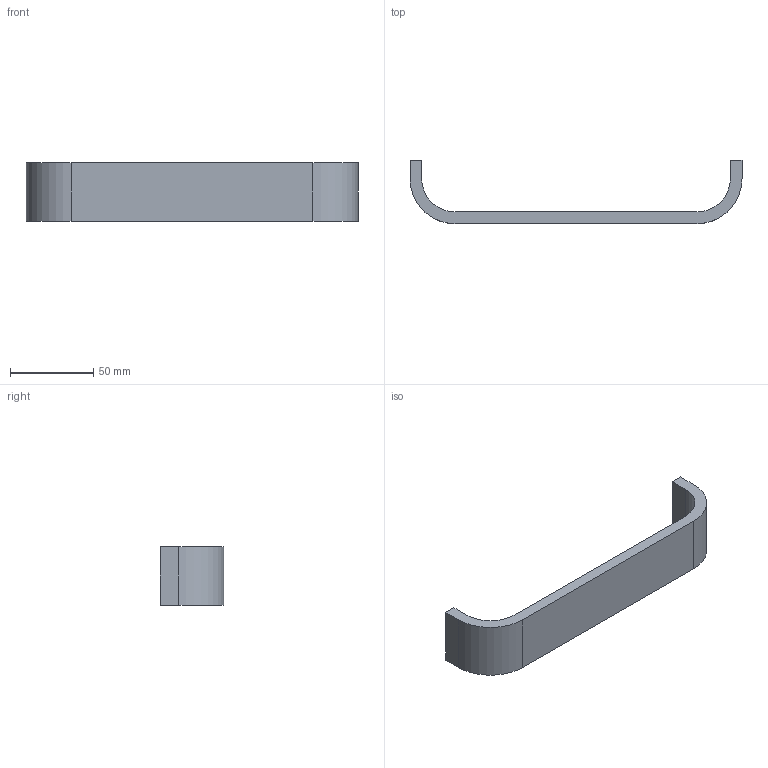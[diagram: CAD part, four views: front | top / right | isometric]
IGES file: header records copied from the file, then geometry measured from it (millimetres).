
Start section: Data from Parasolid IGES Translator 15.0.47, Copyright(c) 2006 Siemens P LM Software. All Rights Reserved.
Global section: file name: 115080.igs; native system:  By UGS Corp.; preprocessor: XPlus GENERIC/IGES 3.0; author: Noname; organization: Noname; date: 20140122.160250; units: millimetre
Bounding box: 199 x 38 x 35 mm (x, y, z)
Surface area: 20920.6 mm2 (no closed solid volume)
Topology: 0 solids, 0 shells, 18 faces, 84 edges, 82 vertices
Faces by surface type: extrusion 12, revolution 6
